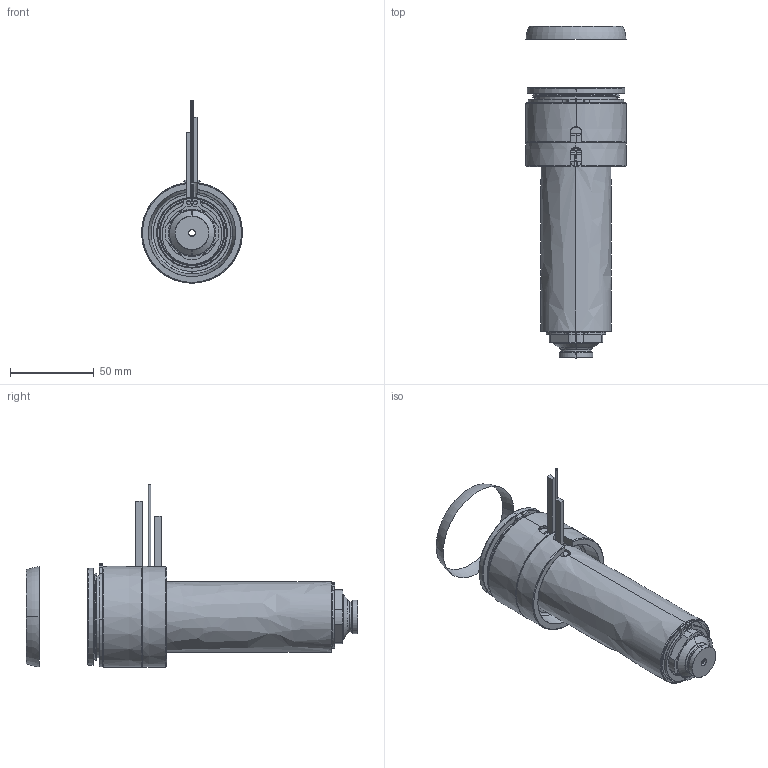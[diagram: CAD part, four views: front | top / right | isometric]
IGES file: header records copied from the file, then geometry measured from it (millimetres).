
Start section: SolidWorks IGES file using analytic representation for surfaces
Global section: file name: C:\Documents and Settings\ws-20\Desktop\TEM\UGER6605-S-A-0 [Øb-3.9 P-0 ØC-16].IGS; native system: SolidWorks 2012; preprocessor: SolidWorks 2012; author: ws-20; date: 120417.123808; units: millimetre
Bounding box: 60 x 197.77 x 108.65 mm (x, y, z)
Surface area: 85126.5 mm2 (no closed solid volume)
Topology: 0 solids, 0 shells, 163 faces, 3094 edges, 3094 vertices
Faces by surface type: revolution 102, bspline 61
